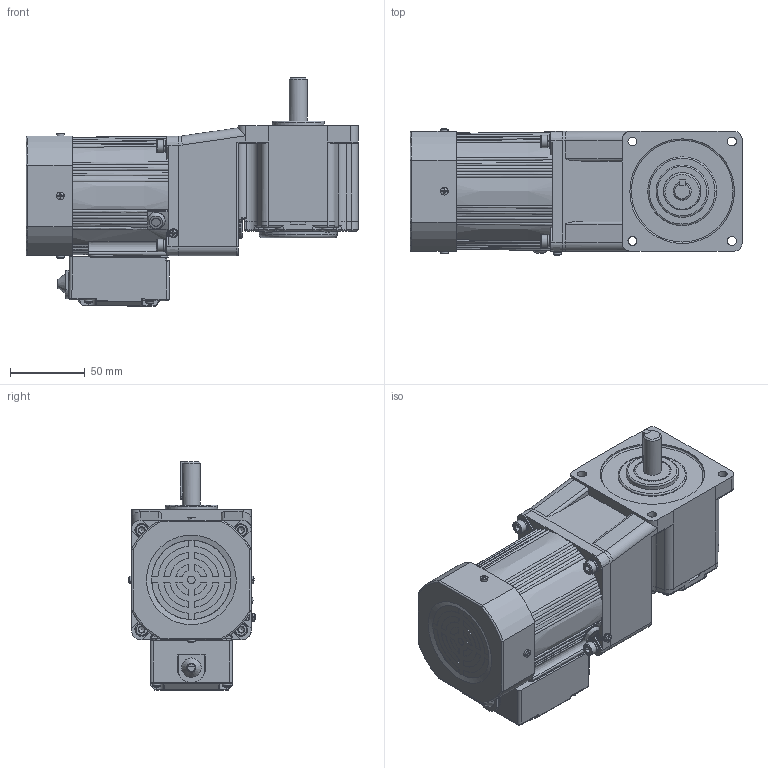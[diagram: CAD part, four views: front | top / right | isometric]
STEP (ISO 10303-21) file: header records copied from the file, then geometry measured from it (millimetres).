
FILE_DESCRIPTION(/* description */ (''),/* implementation_level */ '2;1');
FILE_NAME(/* name */ '80+中实直角-风叶-25-40W 新版标准接线盒.stp',/* time_stamp */ '2025-11-26T08:49:38+08:00',/* author */ (''),/* organization */ (''),/* preprocessor_version */ 'ST-DEVELOPER v18.102',/* originating_system */ 'SIEMENS PLM Software NX 2027',/* authorisation */ '');
FILE_SCHEMA (('AUTOMOTIVE_DESIGN { 1 0 10303 214 3 1 1 1 }'));
Products named in the file (1): 80+中实直角-风叶-25-40W 新版标准接线盒_
stp_objects
Bounding box: 222 x 84.67 x 152.84 mm (x, y, z)
Volume: 1253499.4 mm3; surface area: 156817.6 mm2
Topology: 16 solids, 16 shells, 1724 faces, 4423 edges, 2772 vertices
Faces by surface type: plane 763, cylinder 511, bspline 166, torus 137, cone 107, sphere 40
Full cylindrical faces by diameter (mm): 2.2 x2, 2.6 x1, 2.9 x4, 3.2 x1, 3.5 x2, 4.2 x5, 4.4 x1, 4.8 x1, 4.826 x4, 5 x10, 5.1 x5, 5.3 x4, 5.6 x4, 5.849 x1, 6 x12, 7 x1, 8 x5, 8.5 x4, 9 x4, 10 x2, 10.5 x1, 12 x2, 19 x1, 25 x1, 26 x1, 35 x1, 46 x1, 52 x1, 56 x1, 67 x1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
Entity records: 58533 total; most frequent: CARTESIAN_POINT 19091, ORIENTED_EDGE 8286, DIRECTION 7629, EDGE_CURVE 4143, AXIS2_PLACEMENT_3D 2899, VERTEX_POINT 2692, EDGE_LOOP 2057, LINE 1831
